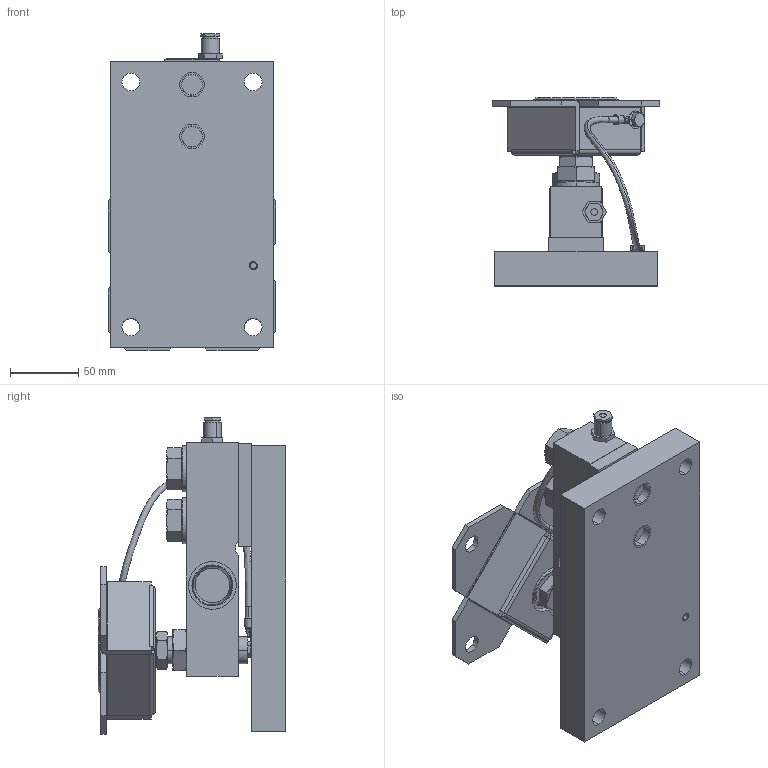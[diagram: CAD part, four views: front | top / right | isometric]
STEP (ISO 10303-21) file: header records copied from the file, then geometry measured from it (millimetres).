
FILE_DESCRIPTION((''),'1');
FILE_NAME('LMLAO_size-60_zinc-plated.step','2022-10-31T15:07:35',(''),(''),'','','');
FILE_SCHEMA(('AUTOMOTIVE_DESIGN { 1 0 10303 214 1 1 1 1 }'));
Products named in the file (21): LMLAO part 01; LMLAO nut 01; LMLAO part 03; LMLAO base 01; LMLAO size-60_zinc-plated; LMLAO part 04; LMLAO part 05; LMLAO part 07; LMLAO part 08; LMLAO part 09; LMLAO part 10; LMLAO part 11; LMLAO cable 01; LMLAO screw 01; LMLAO load cell 01; LMLAO part 13; LMLAO part 14; LMLAO screw 02; LMLAO screw 03; LMLAO part 15
Assembly tree (25 placements, depth 4):
  LMLAO size-60_zinc-plated
    LMLAO part 01
      LMLAO nut 01
      LMLAO part 03
      LMLAO base 01
    LMLAO part 09
      LMLAO part 04
        LMLAO part 05
        LMLAO part 07
        LMLAO part 08
      LMLAO part 10
        LMLAO part 11
        LMLAO part 07
        LMLAO part 08
      LMLAO cable 01
    LMLAO size-60_zinc-plated
    LMLAO screw 01  x2
    LMLAO load cell 01
    LMLAO part 13
    LMLAO part 14
    LMLAO screw 02  x2
    LMLAO screw 03  x2
    LMLAO part 15
Bounding box: 122.99 x 138.08 x 232.19 mm (x, y, z)
Volume: 1086365.8 mm3; surface area: 236952.8 mm2
Topology: 20 solids, 27 shells, 692 faces, 1716 edges, 1088 vertices
Faces by surface type: plane 258, cylinder 240, cone 92, bspline 70, torus 32
Full cylindrical faces by diameter (mm): 4 x2
Entity records: 22474 total; most frequent: CARTESIAN_POINT 9587, DIRECTION 2657, ORIENTED_EDGE 2476, EDGE_CURVE 1252, AXIS2_PLACEMENT_3D 1050, VERTEX_POINT 797, EDGE_LOOP 585, LINE 557
